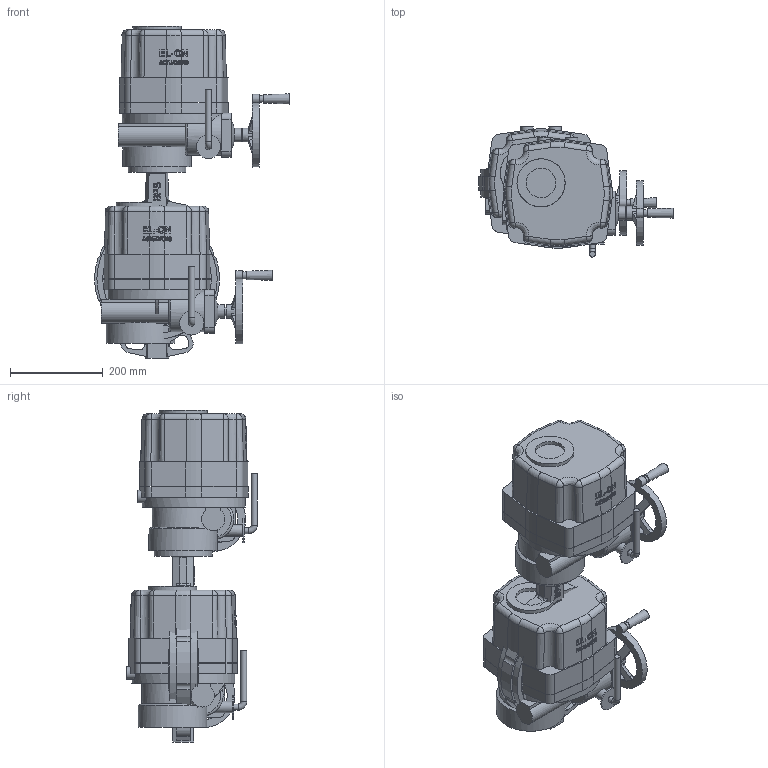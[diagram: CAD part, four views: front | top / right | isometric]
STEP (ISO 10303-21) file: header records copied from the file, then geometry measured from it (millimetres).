
FILE_DESCRIPTION( ( 'Unknown' ), '1' );
FILE_NAME( 'R:/ECCUA/ROOTSI BPS 3D vidinad/Poordklapid Wafer type/Butterfly valve(wafer) with electric actuator BPS/STEP formaat/BPS 2303200E(R) butterfly valve DN200.stp', 'Unknown', ( 'Unknown' ), ( 'Unknown' ), 'PSStep 10.1', 'Unknown', ' ' );
FILE_SCHEMA( ( 'AUTOMOTIVE_DESIGN { 1 0 10303 214 1 1 1 1 }' ) );
Length unit declared in the file: millimetre
Products named in the file (3): Assem1; Butterfly valve wafer type DN200 BPS; BPS 8005300-500 electric actuator DN200-350
Bounding box: 421 x 282 x 717 mm (x, y, z)
Volume: 27780938.4 mm3; surface area: 1514075.2 mm2
Topology: 4 solids, 4 shells, 1050 faces, 2744 edges, 1778 vertices
Faces by surface type: plane 410, cylinder 290, bspline 126, cone 96, extrusion 82, torus 30, sphere 16
Full cylindrical faces by diameter (mm): 8.376 x16, 10.106 x16, 11 x8, 13 x4, 15 x2, 18 x2, 25 x2, 27 x4, 30 x4, 35 x2, 52 x2, 64 x2, 104 x2, 106 x2, 125 x2, 134 x2, 148 x2, 200 x2, 235 x4, 260 x4
Entity records: 30978 total; most frequent: CARTESIAN_POINT 15015, ORIENTED_EDGE 2538, DIRECTION 2069, EDGE_CURVE 1269, VERTEX_POINT 866, AXIS2_PLACEMENT_3D 778, EDGE_LOOP 665, FACE_OUTER_BOUND 575
